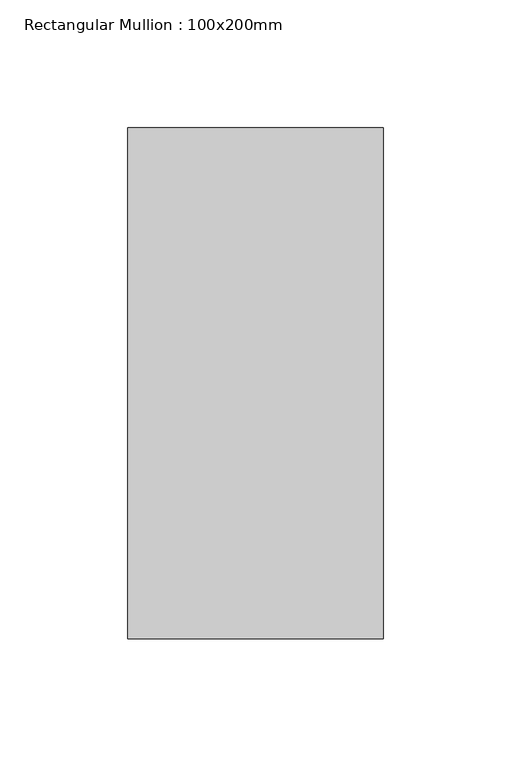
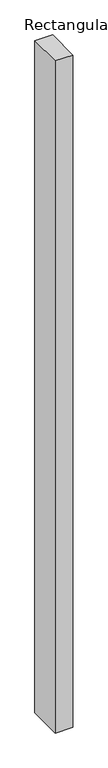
"""IFC4 building model written with IfcOpenShell, lengths in millimetres: member geometry, Rectangular Mullion : 100x200mm."""

from ifc_helpers import new_model, si_unit, frame, origin, place, context, project, spatial, polyline, outline, extrude, source, transform, mapped, element, save


def rectangular_mullion_100x200mm_a67c286b(model_context):
    return source(origin(), model_context, "Body", "SweptSolid", [
        extrude(outline(polyline([(0.0, 100.0), (0.0, -100.0), (-100.0, -100.0), (-100.0, 100.0), (0.0, 100.0)])), frame((0.0, 0.0, -4030.0), z_axis=(0.0, 0.0, 1.0), x_axis=(1.0, 0.0, 0.0)), (0.0, 0.0, 1.0), 4030.0),
    ])


if __name__ == "__main__":
    model = new_model("IFC4")
    model_context = context("Model", 3, world=origin())
    ifc_project = project(units=[si_unit("LENGTHUNIT", "METRE", prefix="MILLI")], contexts=[model_context])
    site = spatial("IfcSite", under=ifc_project)
    building = spatial("IfcBuilding", under=site)
    placement = place(None, origin())
    rectangular_mullion_100x200mm_shape = rectangular_mullion_100x200mm_a67c286b(model_context)
    element("IfcMember", 1, ObjectType="Rectangular Mullion : 100x200mm", at=placement, inside=building, context=model_context, shape_type="MappedRepresentation", body=[
        mapped(rectangular_mullion_100x200mm_shape, transform((0.0, 0.0, 0.0), x_axis=(1.0, 0.0, 0.0), y_axis=(0.0, 1.0, 0.0), z_axis=(0.0, 0.0, 1.0))),
    ])
    save(model, "model.ifc")
